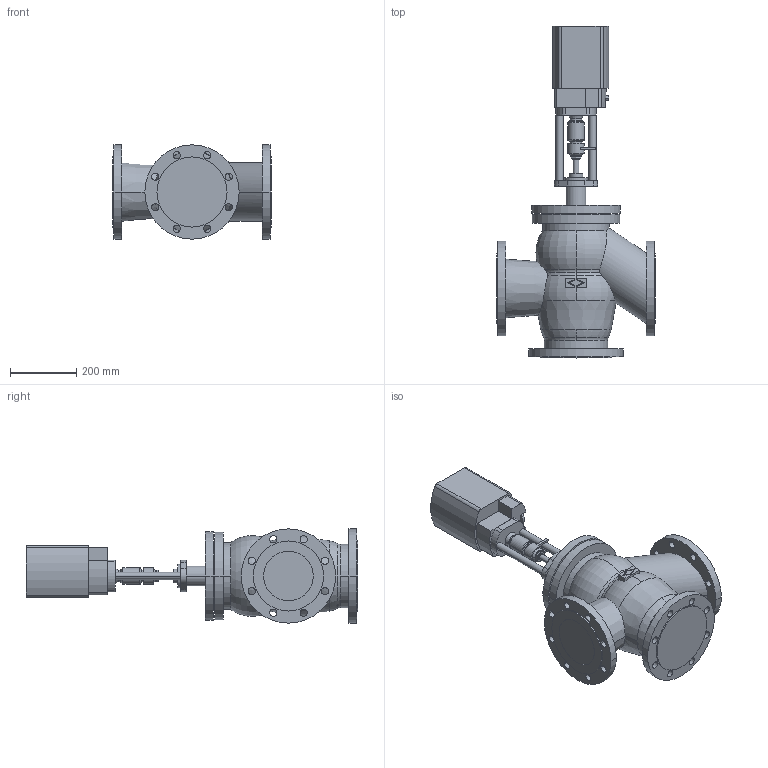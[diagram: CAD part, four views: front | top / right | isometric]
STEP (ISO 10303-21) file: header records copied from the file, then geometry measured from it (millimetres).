
FILE_DESCRIPTION( ( '' ), '1' );
FILE_NAME( 'F:/DE-SHS/TB/OR/04-Sonstiges/daten/files_3d/450-PREMIO-Plus-2G/c000006516.stp', '2017-02-22T12:49:35', ( '' ), ( '' ), ' ', ' ', ' ' );
FILE_SCHEMA( ( 'CONFIG_CONTROL_DESIGN' ) );
Length unit declared in the file: millimetre
Products named in the file (2): 1; 2
Bounding box: 480 x 1003 x 285 mm (x, y, z)
Volume: 34791653.4 mm3; surface area: 1221975.8 mm2
Topology: 2 solids, 2 shells, 267 faces, 692 edges, 455 vertices
Faces by surface type: cylinder 132, plane 96, torus 27, cone 12
Entity records: 8924 total; most frequent: CARTESIAN_POINT 1890, DIRECTION 1570, ORIENTED_EDGE 1384, EDGE_CURVE 692, AXIS2_PLACEMENT_3D 637, VERTEX_POINT 455, CIRCLE 366, EDGE_LOOP 341
